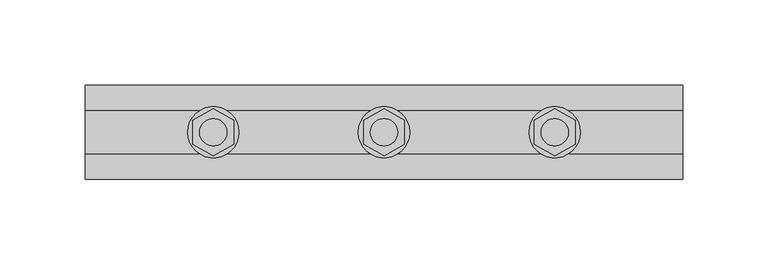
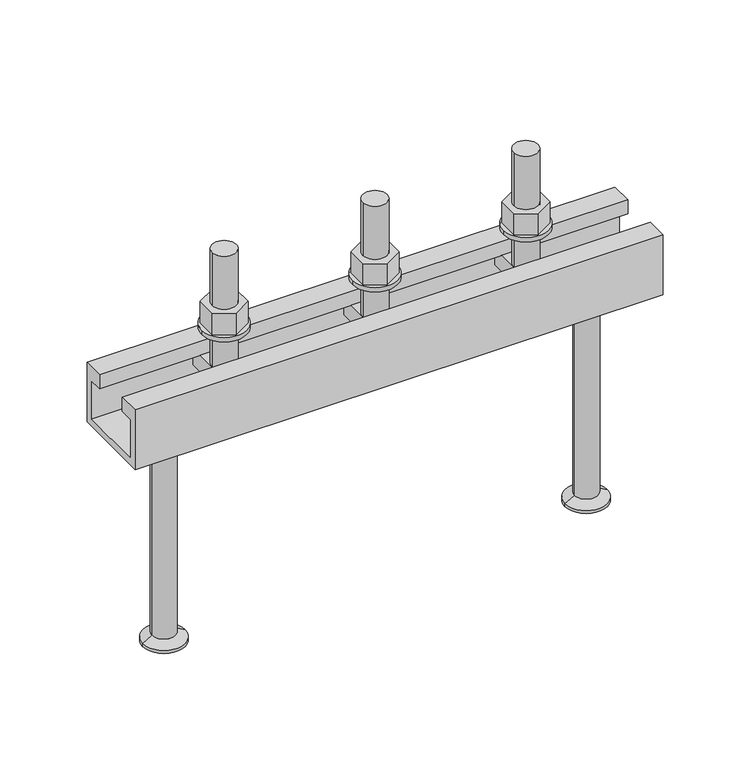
"""IFC4 building model written with IfcOpenShell, lengths in millimetres: fastener geometry, JTA-W JORDAHL® AnchorChannels : JTA-W L=350 mm."""

from ifc_helpers import new_model, si_unit, point, frame, frame_2d, origin, place, context, project, spatial, polyline, circle_curve, trimmed, segment, composite_curve, outline, extrude, source, transform, mapped, element, save
from ifc_brep_helpers import plane_surface, cylinder_surface, revolved_surface, advanced_brep


def fastener_590a0ea5(model_context):
    return source(origin(), model_context, "Body", "SolidModel", [
        extrude(outline(polyline([(175.0, -13.8564065), (163.0, -6.9282032), (163.0, 6.9282032), (175.0, 13.8564065), (187.0, 6.9282032), (187.0, -6.9282032), (175.0, -13.8564065)]), holes=[composite_curve([segment(trimmed(circle_curve(frame_2d((175.0, 0.0)), 8.0), [point((167.0, 0.0))], [point((183.0, 0.0))], True, "CARTESIAN"), True, "CONTINUOUS"), segment(trimmed(circle_curve(frame_2d((175.0, 0.0)), 8.0), [point((183.0, 0.0))], [point((167.0, 0.0))], True, "CARTESIAN"), True, "CONTINUOUS")], self_intersect=False)]), frame((0.0, 0.0, 18.0), z_axis=(0.0, 0.0, 1.0), x_axis=(1.0, 0.0, 0.0)), (0.0, 0.0, 1.0), 14.8),
        extrude(outline(composite_curve([segment(trimmed(circle_curve(frame_2d((175.0, 0.0)), 15.0), [point((160.0, 0.0))], [point((190.0, 0.0))], False, "CARTESIAN"), True, "CONTINUOUS"), segment(trimmed(circle_curve(frame_2d((175.0, 0.0)), 15.0), [point((190.0, 0.0))], [point((160.0, 0.0))], False, "CARTESIAN"), True, "CONTINUOUS")], self_intersect=False), holes=[composite_curve([segment(trimmed(circle_curve(frame_2d((175.0, 0.0)), 8.5), [point((166.5, 0.0))], [point((183.5, 0.0))], True, "CARTESIAN"), True, "CONTINUOUS"), segment(trimmed(circle_curve(frame_2d((175.0, 0.0)), 8.5), [point((183.5, 0.0))], [point((166.5, 0.0))], True, "CARTESIAN"), True, "CONTINUOUS")], self_intersect=False)]), frame((0.0, 0.0, 15.0), z_axis=(0.0, 0.0, 1.0), x_axis=(1.0, 0.0, 0.0)), (0.0, 0.0, 1.0), 3.0),
        advanced_brep(
        [(183.5, -20.7, -10.0), (183.5, -20.7, -21.0), (183.5, 20.7, -21.0), (183.5, 20.7, -10.0), (166.5, -20.7, -10.0), (166.5, 20.7, -10.0), (166.5, 20.7, -21.0), (166.5, -20.7, -21.0), (183.0, 0.0, -10.0), (167.0, 0.0, -10.0), (167.0, 0.0, 70.0), (183.0, 0.0, 70.0)],
        [
            (0, 1),
            (1, 2),
            (2, 3),
            (3, 0),
            (4, 5),
            (5, 6),
            (6, 7),
            (7, 4),
            (3, 5),
            (4, 0),
            (8, 9, circle_curve(frame((175.0, 0.0, -10.0), z_axis=(0.0, 0.0, -1.0), x_axis=(1.0, 0.0, 0.0)), 8.0)),
            (9, 8, circle_curve(frame((175.0, 0.0, -10.0), z_axis=(0.0, 0.0, -1.0), x_axis=(1.0, 0.0, 0.0)), 8.0)),
            (2, 6),
            (1, 7),
            (10, 11, circle_curve(frame((175.0, 0.0, 70.0), z_axis=(0.0, 0.0, 1.0), x_axis=(1.0, 0.0, 0.0)), 8.0)),
            (11, 10, circle_curve(frame((175.0, 0.0, 70.0), z_axis=(0.0, 0.0, 1.0), x_axis=(1.0, 0.0, 0.0)), 8.0)),
            (11, 8),
            (9, 10),
        ],
        [
            plane_surface(frame((183.5, 20.7, -10.0), z_axis=(1.0, 0.0, 0.0), x_axis=(0.0, 1.0, 0.0))),
            plane_surface(frame((166.5, 20.7, -10.0), z_axis=(-1.0, 0.0, 0.0), x_axis=(0.0, -1.0, 0.0))),
            plane_surface(frame((183.5, -20.7, -10.0), z_axis=(0.0, 0.0, 1.0), x_axis=(-1.0, 0.0, 0.0))),
            plane_surface(frame((183.5, 20.7, -10.0), z_axis=(0.0, 1.0, 0.0), x_axis=(-1.0, 0.0, 0.0))),
            plane_surface(frame((183.5, 20.7, -21.0), z_axis=(0.0, 0.0, -1.0), x_axis=(-1.0, 0.0, 0.0))),
            plane_surface(frame((183.5, -20.7, -21.0), z_axis=(0.0, -1.0, 0.0), x_axis=(-1.0, 0.0, 0.0))),
            plane_surface(frame((183.0, 0.0, 70.0), z_axis=(0.0, 0.0, 1.0), x_axis=(0.0, -1.0, 0.0))),
            cylinder_surface(frame((175.0, 0.0, -10.0), z_axis=(0.0, 0.0, 1.0), x_axis=(1.0, 0.0, 0.0)), 8.0),
        ],
        [
            (0, [[1, 2, 3, 4]]),
            (1, [[5, 6, 7, 8]]),
            (2, [[9, -5, 10, -4], [11, 12]]),
            (3, [[13, -6, -9, -3]]),
            (4, [[14, -7, -13, -2]]),
            (5, [[-10, -8, -14, -1]]),
            (6, [[15, 16]]),
            (7, [[17, -12, 18, -16]]),
            (7, [[-18, -11, -17, -15]]),
        ],
    ),
        extrude(outline(polyline([(275.0, -13.8564065), (263.0, -6.9282032), (263.0, 6.9282032), (275.0, 13.8564065), (287.0, 6.9282032), (287.0, -6.9282032), (275.0, -13.8564065)]), holes=[composite_curve([segment(trimmed(circle_curve(frame_2d((275.0, 0.0)), 8.0), [point((267.0, 0.0))], [point((283.0, 0.0))], True, "CARTESIAN"), True, "CONTINUOUS"), segment(trimmed(circle_curve(frame_2d((275.0, 0.0)), 8.0), [point((283.0, 0.0))], [point((267.0, 0.0))], True, "CARTESIAN"), True, "CONTINUOUS")], self_intersect=False)]), frame((0.0, 0.0, 18.0), z_axis=(0.0, 0.0, 1.0), x_axis=(1.0, 0.0, 0.0)), (0.0, 0.0, 1.0), 14.8),
        extrude(outline(composite_curve([segment(trimmed(circle_curve(frame_2d((275.0, 0.0)), 15.0), [point((260.0, 0.0))], [point((290.0, 0.0))], False, "CARTESIAN"), True, "CONTINUOUS"), segment(trimmed(circle_curve(frame_2d((275.0, 0.0)), 15.0), [point((290.0, 0.0))], [point((260.0, 0.0))], False, "CARTESIAN"), True, "CONTINUOUS")], self_intersect=False), holes=[composite_curve([segment(trimmed(circle_curve(frame_2d((275.0, 0.0)), 8.5), [point((266.5, 0.0))], [point((283.5, 0.0))], True, "CARTESIAN"), True, "CONTINUOUS"), segment(trimmed(circle_curve(frame_2d((275.0, 0.0)), 8.5), [point((283.5, 0.0))], [point((266.5, 0.0))], True, "CARTESIAN"), True, "CONTINUOUS")], self_intersect=False)]), frame((0.0, 0.0, 15.0), z_axis=(0.0, 0.0, 1.0), x_axis=(1.0, 0.0, 0.0)), (0.0, 0.0, 1.0), 3.0),
        extrude(outline(polyline([(75.0, -13.8564065), (63.0, -6.9282032), (63.0, 6.9282032), (75.0, 13.8564065), (87.0, 6.9282032), (87.0, -6.9282032), (75.0, -13.8564065)]), holes=[composite_curve([segment(trimmed(circle_curve(frame_2d((75.0, 0.0)), 8.0), [point((67.0, 0.0))], [point((83.0, 0.0))], True, "CARTESIAN"), True, "CONTINUOUS"), segment(trimmed(circle_curve(frame_2d((75.0, 0.0)), 8.0), [point((83.0, 0.0))], [point((67.0, 0.0))], True, "CARTESIAN"), True, "CONTINUOUS")], self_intersect=False)]), frame((0.0, 0.0, 18.0), z_axis=(0.0, 0.0, 1.0), x_axis=(1.0, 0.0, 0.0)), (0.0, 0.0, 1.0), 14.8),
        extrude(outline(composite_curve([segment(trimmed(circle_curve(frame_2d((75.0, 0.0)), 15.0), [point((60.0, 0.0))], [point((90.0, 0.0))], False, "CARTESIAN"), True, "CONTINUOUS"), segment(trimmed(circle_curve(frame_2d((75.0, 0.0)), 15.0), [point((90.0, 0.0))], [point((60.0, 0.0))], False, "CARTESIAN"), True, "CONTINUOUS")], self_intersect=False), holes=[composite_curve([segment(trimmed(circle_curve(frame_2d((75.0, 0.0)), 8.5), [point((66.5, 0.0))], [point((83.5, 0.0))], True, "CARTESIAN"), True, "CONTINUOUS"), segment(trimmed(circle_curve(frame_2d((75.0, 0.0)), 8.5), [point((83.5, 0.0))], [point((66.5, 0.0))], True, "CARTESIAN"), True, "CONTINUOUS")], self_intersect=False)]), frame((0.0, 0.0, 15.0), z_axis=(0.0, 0.0, 1.0), x_axis=(1.0, 0.0, 0.0)), (0.0, 0.0, 1.0), 3.0),
        advanced_brep(
        [(283.5, -20.7, -10.0), (283.5, -20.7, -21.0), (283.5, 20.7, -21.0), (283.5, 20.7, -10.0), (266.5, -20.7, -10.0), (266.5, 20.7, -10.0), (266.5, 20.7, -21.0), (266.5, -20.7, -21.0), (283.0, 0.0, -10.0), (267.0, 0.0, -10.0), (267.0, 0.0, 70.0), (283.0, 0.0, 70.0)],
        [
            (0, 1),
            (1, 2),
            (2, 3),
            (3, 0),
            (4, 5),
            (5, 6),
            (6, 7),
            (7, 4),
            (3, 5),
            (4, 0),
            (8, 9, circle_curve(frame((275.0, 0.0, -10.0), z_axis=(0.0, 0.0, -1.0), x_axis=(1.0, 0.0, 0.0)), 8.0)),
            (9, 8, circle_curve(frame((275.0, 0.0, -10.0), z_axis=(0.0, 0.0, -1.0), x_axis=(1.0, 0.0, 0.0)), 8.0)),
            (2, 6),
            (1, 7),
            (10, 11, circle_curve(frame((275.0, 0.0, 70.0), z_axis=(0.0, 0.0, 1.0), x_axis=(1.0, 0.0, 0.0)), 8.0)),
            (11, 10, circle_curve(frame((275.0, 0.0, 70.0), z_axis=(0.0, 0.0, 1.0), x_axis=(1.0, 0.0, 0.0)), 8.0)),
            (11, 8),
            (9, 10),
        ],
        [
            plane_surface(frame((283.5, 20.7, -10.0), z_axis=(1.0, 0.0, 0.0), x_axis=(0.0, 1.0, 0.0))),
            plane_surface(frame((266.5, 20.7, -10.0), z_axis=(-1.0, 0.0, 0.0), x_axis=(0.0, -1.0, 0.0))),
            plane_surface(frame((283.5, -20.7, -10.0), z_axis=(0.0, 0.0, 1.0), x_axis=(-1.0, 0.0, 0.0))),
            plane_surface(frame((283.5, 20.7, -10.0), z_axis=(0.0, 1.0, 0.0), x_axis=(-1.0, 0.0, 0.0))),
            plane_surface(frame((283.5, 20.7, -21.0), z_axis=(0.0, 0.0, -1.0), x_axis=(-1.0, 0.0, 0.0))),
            plane_surface(frame((283.5, -20.7, -21.0), z_axis=(0.0, -1.0, 0.0), x_axis=(-1.0, 0.0, 0.0))),
            plane_surface(frame((283.0, 0.0, 70.0), z_axis=(0.0, 0.0, 1.0), x_axis=(0.0, -1.0, 0.0))),
            cylinder_surface(frame((275.0, 0.0, -10.0), z_axis=(0.0, 0.0, 1.0), x_axis=(1.0, 0.0, 0.0)), 8.0),
        ],
        [
            (0, [[1, 2, 3, 4]]),
            (1, [[5, 6, 7, 8]]),
            (2, [[9, -5, 10, -4], [11, 12]]),
            (3, [[13, -6, -9, -3]]),
            (4, [[14, -7, -13, -2]]),
            (5, [[-10, -8, -14, -1]]),
            (6, [[15, 16]]),
            (7, [[17, -12, 18, -16]]),
            (7, [[-18, -11, -17, -15]]),
        ],
    ),
        advanced_brep(
        [(83.5, -20.7, -10.0), (83.5, -20.7, -21.0), (83.5, 20.7, -21.0), (83.5, 20.7, -10.0), (66.5, -20.7, -10.0), (66.5, 20.7, -10.0), (66.5, 20.7, -21.0), (66.5, -20.7, -21.0), (83.0, 0.0, -10.0), (67.0, 0.0, -10.0), (67.0, 0.0, 70.0), (83.0, 0.0, 70.0)],
        [
            (0, 1),
            (1, 2),
            (2, 3),
            (3, 0),
            (4, 5),
            (5, 6),
            (6, 7),
            (7, 4),
            (3, 5),
            (4, 0),
            (8, 9, circle_curve(frame((75.0, 0.0, -10.0), z_axis=(0.0, 0.0, -1.0), x_axis=(1.0, 0.0, 0.0)), 8.0)),
            (9, 8, circle_curve(frame((75.0, 0.0, -10.0), z_axis=(0.0, 0.0, -1.0), x_axis=(1.0, 0.0, 0.0)), 8.0)),
            (2, 6),
            (1, 7),
            (10, 11, circle_curve(frame((75.0, 0.0, 70.0), z_axis=(0.0, 0.0, 1.0), x_axis=(1.0, 0.0, 0.0)), 8.0)),
            (11, 10, circle_curve(frame((75.0, 0.0, 70.0), z_axis=(0.0, 0.0, 1.0), x_axis=(1.0, 0.0, 0.0)), 8.0)),
            (11, 8),
            (9, 10),
        ],
        [
            plane_surface(frame((83.5, 20.7, -10.0), z_axis=(1.0, 0.0, 0.0), x_axis=(0.0, 1.0, 0.0))),
            plane_surface(frame((66.5, 20.7, -10.0), z_axis=(-1.0, 0.0, 0.0), x_axis=(0.0, -1.0, 0.0))),
            plane_surface(frame((83.5, -20.7, -10.0), z_axis=(0.0, 0.0, 1.0), x_axis=(-1.0, 0.0, 0.0))),
            plane_surface(frame((83.5, 20.7, -10.0), z_axis=(0.0, 1.0, 0.0), x_axis=(-1.0, 0.0, 0.0))),
            plane_surface(frame((83.5, 20.7, -21.0), z_axis=(0.0, 0.0, -1.0), x_axis=(-1.0, 0.0, 0.0))),
            plane_surface(frame((83.5, -20.7, -21.0), z_axis=(0.0, -1.0, 0.0), x_axis=(-1.0, 0.0, 0.0))),
            plane_surface(frame((83.0, 0.0, 70.0), z_axis=(0.0, 0.0, 1.0), x_axis=(0.0, -1.0, 0.0))),
            cylinder_surface(frame((75.0, 0.0, -10.0), z_axis=(0.0, 0.0, 1.0), x_axis=(1.0, 0.0, 0.0)), 8.0),
        ],
        [
            (0, [[1, 2, 3, 4]]),
            (1, [[5, 6, 7, 8]]),
            (2, [[9, -5, 10, -4], [11, 12]]),
            (3, [[13, -6, -9, -3]]),
            (4, [[14, -7, -13, -2]]),
            (5, [[-10, -8, -14, -1]]),
            (6, [[15, 16]]),
            (7, [[17, -12, 18, -16]]),
            (7, [[-18, -11, -17, -15]]),
        ],
    ),
        advanced_brep(
        [(315.0, 0.0, -42.0), (292.0, 0.0, -42.0), (338.0, 0.0, -42.0), (301.0, 0.0, -190.0), (315.0, 0.0, -190.0), (329.0, 0.0, -190.0), (301.0, 0.0, -188.0), (329.0, 0.0, -188.0), (307.2, 0.0, -184.4204283), (322.8, 0.0, -184.4204283), (307.2, 0.0, -46.0), (322.8, 0.0, -46.0)],
        [
            (0, 1),
            (1, 2, circle_curve(frame((315.0, 0.0, -42.0), z_axis=(0.0, 0.0, 1.0), x_axis=(1.0, 0.0, 0.0)), 23.0)),
            (2, 0),
            (2, 1, circle_curve(frame((315.0, 0.0, -42.0), z_axis=(0.0, 0.0, 1.0), x_axis=(1.0, 0.0, 0.0)), 23.0)),
            (3, 4),
            (4, 5),
            (5, 3, circle_curve(frame((315.0, 0.0, -190.0), z_axis=(0.0, 0.0, -1.0), x_axis=(1.0, 0.0, 0.0)), 14.0)),
            (3, 5, circle_curve(frame((315.0, 0.0, -190.0), z_axis=(0.0, 0.0, -1.0), x_axis=(1.0, 0.0, 0.0)), 14.0)),
            (6, 3),
            (5, 7),
            (7, 6, circle_curve(frame((315.0, 0.0, -188.0), z_axis=(0.0, 0.0, -1.0), x_axis=(1.0, 0.0, 0.0)), 14.0)),
            (6, 7, circle_curve(frame((315.0, 0.0, -188.0), z_axis=(0.0, 0.0, -1.0), x_axis=(1.0, 0.0, 0.0)), 14.0)),
            (8, 6),
            (7, 9),
            (9, 8, circle_curve(frame((315.0, 0.0, -184.4204283), z_axis=(0.0, 0.0, -1.0), x_axis=(1.0, 0.0, 0.0)), 7.8)),
            (8, 9, circle_curve(frame((315.0, 0.0, -184.4204283), z_axis=(0.0, 0.0, -1.0), x_axis=(1.0, 0.0, 0.0)), 7.8)),
            (10, 8),
            (9, 11),
            (11, 10, circle_curve(frame((315.0, 0.0, -46.0), z_axis=(0.0, 0.0, -1.0), x_axis=(1.0, 0.0, 0.0)), 7.8)),
            (10, 11, circle_curve(frame((315.0, 0.0, -46.0), z_axis=(0.0, 0.0, -1.0), x_axis=(1.0, 0.0, 0.0)), 7.8)),
            (1, 10),
            (11, 2),
        ],
        [
            plane_surface(frame((315.0, 0.0, -42.0), z_axis=(0.0, 0.0, 1.0), x_axis=(1.0, 0.0, 0.0))),
            plane_surface(frame((315.0, 0.0, -190.0), z_axis=(0.0, 0.0, -1.0), x_axis=(1.0, 0.0, 0.0))),
            cylinder_surface(frame((315.0, 0.0, 2362.3150031), z_axis=(0.0, 0.0, 1.0), x_axis=(1.0, 0.0, 0.0)), 14.0),
            revolved_surface(polyline([(329.0, 0.0, -188.0), (322.8, 0.0, -184.4204283)]), (315.0, 0.0, 2362.3150031), (0.0, 0.0, 1.0)),
            cylinder_surface(frame((315.0, 0.0, 2362.3150031), z_axis=(0.0, 0.0, 1.0), x_axis=(1.0, 0.0, 0.0)), 7.8),
            revolved_surface(polyline([(322.8, 0.0, -46.0), (338.0, 0.0, -42.0)]), (315.0, 0.0, 2362.3150031), (0.0, 0.0, 1.0)),
        ],
        [
            (0, [[1, 2, 3]]),
            (0, [[-3, 4, -1]]),
            (1, [[5, 6, 7]]),
            (1, [[-6, -5, 8]]),
            (2, [[9, -7, 10, 11]]),
            (2, [[-10, -8, -9, 12]]),
            (3, [[13, -11, 14, 15]]),
            (3, [[-14, -12, -13, 16]]),
            (4, [[17, -15, 18, 19]]),
            (4, [[-18, -16, -17, 20]]),
            (5, [[21, -19, 22, -2]]),
            (5, [[-22, -20, -21, -4]]),
        ],
    ),
        advanced_brep(
        [(35.0, 0.0, -42.0), (12.0, 0.0, -42.0), (58.0, 0.0, -42.0), (21.0, 0.0, -190.0), (35.0, 0.0, -190.0), (49.0, 0.0, -190.0), (21.0, 0.0, -188.0), (49.0, 0.0, -188.0), (27.2, 0.0, -184.4204283), (42.8, 0.0, -184.4204283), (27.2, 0.0, -46.0), (42.8, 0.0, -46.0)],
        [
            (0, 1),
            (1, 2, circle_curve(frame((35.0, 0.0, -42.0), z_axis=(0.0, 0.0, 1.0), x_axis=(1.0, 0.0, 0.0)), 23.0)),
            (2, 0),
            (2, 1, circle_curve(frame((35.0, 0.0, -42.0), z_axis=(0.0, 0.0, 1.0), x_axis=(1.0, 0.0, 0.0)), 23.0)),
            (3, 4),
            (4, 5),
            (5, 3, circle_curve(frame((35.0, 0.0, -190.0), z_axis=(0.0, 0.0, -1.0), x_axis=(1.0, 0.0, 0.0)), 14.0)),
            (3, 5, circle_curve(frame((35.0, 0.0, -190.0), z_axis=(0.0, 0.0, -1.0), x_axis=(1.0, 0.0, 0.0)), 14.0)),
            (6, 3),
            (5, 7),
            (7, 6, circle_curve(frame((35.0, 0.0, -188.0), z_axis=(0.0, 0.0, -1.0), x_axis=(1.0, 0.0, 0.0)), 14.0)),
            (6, 7, circle_curve(frame((35.0, 0.0, -188.0), z_axis=(0.0, 0.0, -1.0), x_axis=(1.0, 0.0, 0.0)), 14.0)),
            (8, 6),
            (7, 9),
            (9, 8, circle_curve(frame((35.0, 0.0, -184.4204283), z_axis=(0.0, 0.0, -1.0), x_axis=(1.0, 0.0, 0.0)), 7.8)),
            (8, 9, circle_curve(frame((35.0, 0.0, -184.4204283), z_axis=(0.0, 0.0, -1.0), x_axis=(1.0, 0.0, 0.0)), 7.8)),
            (10, 8),
            (9, 11),
            (11, 10, circle_curve(frame((35.0, 0.0, -46.0), z_axis=(0.0, 0.0, -1.0), x_axis=(1.0, 0.0, 0.0)), 7.8)),
            (10, 11, circle_curve(frame((35.0, 0.0, -46.0), z_axis=(0.0, 0.0, -1.0), x_axis=(1.0, 0.0, 0.0)), 7.8)),
            (1, 10),
            (11, 2),
        ],
        [
            plane_surface(frame((35.0, 0.0, -42.0), z_axis=(0.0, 0.0, 1.0), x_axis=(1.0, 0.0, 0.0))),
            plane_surface(frame((35.0, 0.0, -190.0), z_axis=(0.0, 0.0, -1.0), x_axis=(1.0, 0.0, 0.0))),
            cylinder_surface(frame((35.0, 0.0, 2362.3150031), z_axis=(0.0, 0.0, 1.0), x_axis=(1.0, 0.0, 0.0)), 14.0),
            revolved_surface(polyline([(49.0, 0.0, -188.0), (42.8, 0.0, -184.4204283)]), (35.0, 0.0, 2362.3150031), (0.0, 0.0, 1.0)),
            cylinder_surface(frame((35.0, 0.0, 2362.3150031), z_axis=(0.0, 0.0, 1.0), x_axis=(1.0, 0.0, 0.0)), 7.8),
            revolved_surface(polyline([(42.8, 0.0, -46.0), (58.0, 0.0, -42.0)]), (35.0, 0.0, 2362.3150031), (0.0, 0.0, 1.0)),
        ],
        [
            (0, [[1, 2, 3]]),
            (0, [[-3, 4, -1]]),
            (1, [[5, 6, 7]]),
            (1, [[-6, -5, 8]]),
            (2, [[9, -7, 10, 11]]),
            (2, [[-10, -8, -9, 12]]),
            (3, [[13, -11, 14, 15]]),
            (3, [[-14, -12, -13, 16]]),
            (4, [[17, -15, 18, 19]]),
            (4, [[-18, -16, -17, 20]]),
            (5, [[21, -19, 22, -2]]),
            (5, [[-22, -20, -21, -4]]),
        ],
    ),
        extrude(outline(polyline([(-27.5, 0.0), (-13.0, 0.0), (-13.0, -10.0), (-22.5, -10.0), (-22.5, -37.0), (22.5, -37.0), (22.5, -10.0), (13.0, -10.0), (13.0, 0.0), (27.5, 0.0), (27.5, -42.0), (-27.5, -42.0), (-27.5, 0.0)])), frame((0.0, 0.0, 0.0), z_axis=(1.0, 0.0, 0.0), x_axis=(0.0, 1.0, 0.0)), (0.0, 0.0, 1.0), 350.0),
    ])


if __name__ == "__main__":
    model = new_model("IFC4")
    model_context = context("Model", 3, world=origin())
    ifc_project = project(units=[si_unit("LENGTHUNIT", "METRE", prefix="MILLI")], contexts=[model_context])
    site = spatial("IfcSite", under=ifc_project)
    building = spatial("IfcBuilding", under=site)
    placement = place(None, origin())
    fastener_shape = fastener_590a0ea5(model_context)
    element("IfcFastener", 1, ObjectType="JTA-W JORDAHL® AnchorChannels : JTA-W L=350 mm", at=placement, inside=building, context=model_context, shape_type="MappedRepresentation", body=[
        mapped(fastener_shape, transform((0.0, 0.0, 0.0), x_axis=(1.0, 0.0, 0.0), y_axis=(0.0, 1.0, 0.0), z_axis=(0.0, 0.0, 1.0))),
    ])
    save(model, "model.ifc")
